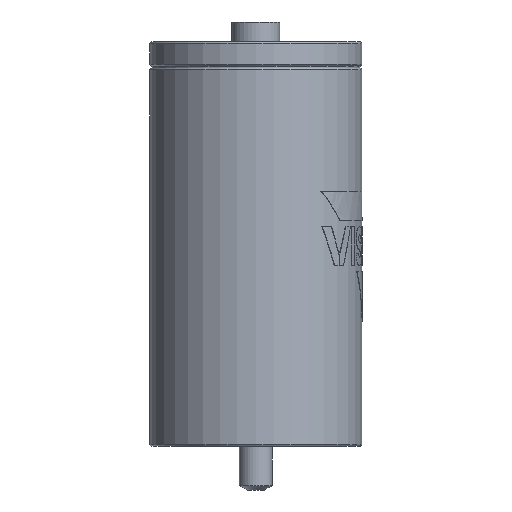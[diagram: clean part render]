
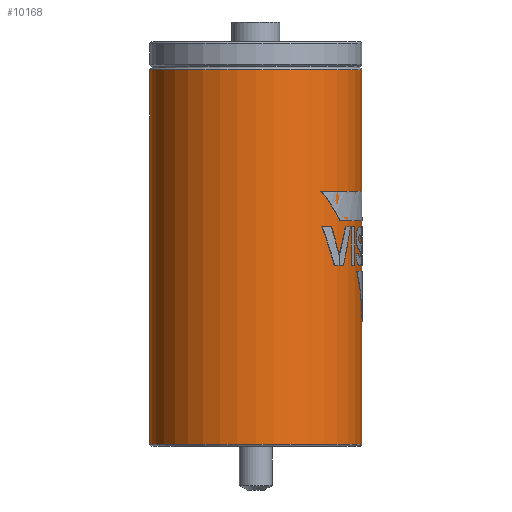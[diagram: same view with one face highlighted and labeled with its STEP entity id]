
A CAD part, left-side view. The second image highlights one B-rep face of the part: STEP entity #10168.
In plain terms, the highlighted cylindrical face has radius 38.2 mm (diameter 76.4 mm), a full revolution.
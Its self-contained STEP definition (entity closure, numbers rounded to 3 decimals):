
#10101 = TOROIDAL_SURFACE('',#10102,37.5,0.7);
#10102 = AXIS2_PLACEMENT_3D('',#10103,#10104,#10105);
#10103 = CARTESIAN_POINT('',(0.,0.,-144.4));
#10104 = DIRECTION('',(0.,0.,1.));
#10105 = DIRECTION('',(1.,0.,0.));
#10118 = VERTEX_POINT('',#10119);
#10119 = CARTESIAN_POINT('',(38.2,0.,-144.4));
#10141 = EDGE_CURVE('',#10118,#10118,#10142,.T.);
#10142 = SURFACE_CURVE('',#10143,(#10148,#10155),.PCURVE_S1.);
#10143 = CIRCLE('',#10144,38.2);
#10144 = AXIS2_PLACEMENT_3D('',#10145,#10146,#10147);
#10145 = CARTESIAN_POINT('',(0.,0.,-144.4));
#10146 = DIRECTION('',(-0.,0.,1.));
#10147 = DIRECTION('',(1.,0.,0.));
#10148 = PCURVE('',#10101,#10149);
#10149 = DEFINITIONAL_REPRESENTATION('',(#10150),#10154);
#10150 = LINE('',#10151,#10152);
#10151 = CARTESIAN_POINT('',(0.,6.283));
#10152 = VECTOR('',#10153,1.);
#10153 = DIRECTION('',(1.,0.));
#10154 = ( GEOMETRIC_REPRESENTATION_CONTEXT(2) 
PARAMETRIC_REPRESENTATION_CONTEXT() REPRESENTATION_CONTEXT('2D SPACE',''
  ) );
#10155 = PCURVE('',#10156,#10161);
#10156 = CYLINDRICAL_SURFACE('',#10157,38.2);
#10157 = AXIS2_PLACEMENT_3D('',#10158,#10159,#10160);
#10158 = CARTESIAN_POINT('',(0.,0.,-144.4));
#10159 = DIRECTION('',(0.,0.,1.));
#10160 = DIRECTION('',(1.,0.,0.));
#10161 = DEFINITIONAL_REPRESENTATION('',(#10162),#10166);
#10162 = LINE('',#10163,#10164);
#10163 = CARTESIAN_POINT('',(0.,0.));
#10164 = VECTOR('',#10165,1.);
#10165 = DIRECTION('',(1.,0.));
#10166 = ( GEOMETRIC_REPRESENTATION_CONTEXT(2) 
PARAMETRIC_REPRESENTATION_CONTEXT() REPRESENTATION_CONTEXT('2D SPACE',''
  ) );
#10168 = ADVANCED_FACE('',(#10169),#10156,.T.);
#10169 = FACE_BOUND('',#10170,.T.);
#10170 = EDGE_LOOP('',(#10171,#10172,#10195,#10222));
#10171 = ORIENTED_EDGE('',*,*,#10141,.T.);
#10172 = ORIENTED_EDGE('',*,*,#10173,.T.);
#10173 = EDGE_CURVE('',#10118,#10174,#10176,.T.);
#10174 = VERTEX_POINT('',#10175);
#10175 = CARTESIAN_POINT('',(38.2,0.,-9.4));
#10176 = SEAM_CURVE('',#10177,(#10181,#10188),.PCURVE_S1.);
#10177 = LINE('',#10178,#10179);
#10178 = CARTESIAN_POINT('',(38.2,0.,-144.4));
#10179 = VECTOR('',#10180,1.);
#10180 = DIRECTION('',(0.,0.,1.));
#10181 = PCURVE('',#10156,#10182);
#10182 = DEFINITIONAL_REPRESENTATION('',(#10183),#10187);
#10183 = LINE('',#10184,#10185);
#10184 = CARTESIAN_POINT('',(0.,0.));
#10185 = VECTOR('',#10186,1.);
#10186 = DIRECTION('',(0.,1.));
#10187 = ( GEOMETRIC_REPRESENTATION_CONTEXT(2) 
PARAMETRIC_REPRESENTATION_CONTEXT() REPRESENTATION_CONTEXT('2D SPACE',''
  ) );
#10188 = PCURVE('',#10156,#10189);
#10189 = DEFINITIONAL_REPRESENTATION('',(#10190),#10194);
#10190 = LINE('',#10191,#10192);
#10191 = CARTESIAN_POINT('',(6.283,0.));
#10192 = VECTOR('',#10193,1.);
#10193 = DIRECTION('',(0.,1.));
#10194 = ( GEOMETRIC_REPRESENTATION_CONTEXT(2) 
PARAMETRIC_REPRESENTATION_CONTEXT() REPRESENTATION_CONTEXT('2D SPACE',''
  ) );
#10195 = ORIENTED_EDGE('',*,*,#10196,.F.);
#10196 = EDGE_CURVE('',#10174,#10174,#10197,.T.);
#10197 = SURFACE_CURVE('',#10198,(#10203,#10210),.PCURVE_S1.);
#10198 = CIRCLE('',#10199,38.2);
#10199 = AXIS2_PLACEMENT_3D('',#10200,#10201,#10202);
#10200 = CARTESIAN_POINT('',(0.,0.,-9.4));
#10201 = DIRECTION('',(-0.,0.,1.));
#10202 = DIRECTION('',(1.,0.,0.));
#10203 = PCURVE('',#10156,#10204);
#10204 = DEFINITIONAL_REPRESENTATION('',(#10205),#10209);
#10205 = LINE('',#10206,#10207);
#10206 = CARTESIAN_POINT('',(0.,135.));
#10207 = VECTOR('',#10208,1.);
#10208 = DIRECTION('',(1.,0.));
#10209 = ( GEOMETRIC_REPRESENTATION_CONTEXT(2) 
PARAMETRIC_REPRESENTATION_CONTEXT() REPRESENTATION_CONTEXT('2D SPACE',''
  ) );
#10210 = PCURVE('',#10211,#10216);
#10211 = TOROIDAL_SURFACE('',#10212,37.5,0.7);
#10212 = AXIS2_PLACEMENT_3D('',#10213,#10214,#10215);
#10213 = CARTESIAN_POINT('',(0.,0.,-9.4));
#10214 = DIRECTION('',(0.,0.,1.));
#10215 = DIRECTION('',(1.,0.,0.));
#10216 = DEFINITIONAL_REPRESENTATION('',(#10217),#10221);
#10217 = LINE('',#10218,#10219);
#10218 = CARTESIAN_POINT('',(0.,0.));
#10219 = VECTOR('',#10220,1.);
#10220 = DIRECTION('',(1.,0.));
#10221 = ( GEOMETRIC_REPRESENTATION_CONTEXT(2) 
PARAMETRIC_REPRESENTATION_CONTEXT() REPRESENTATION_CONTEXT('2D SPACE',''
  ) );
#10222 = ORIENTED_EDGE('',*,*,#10173,.F.);
